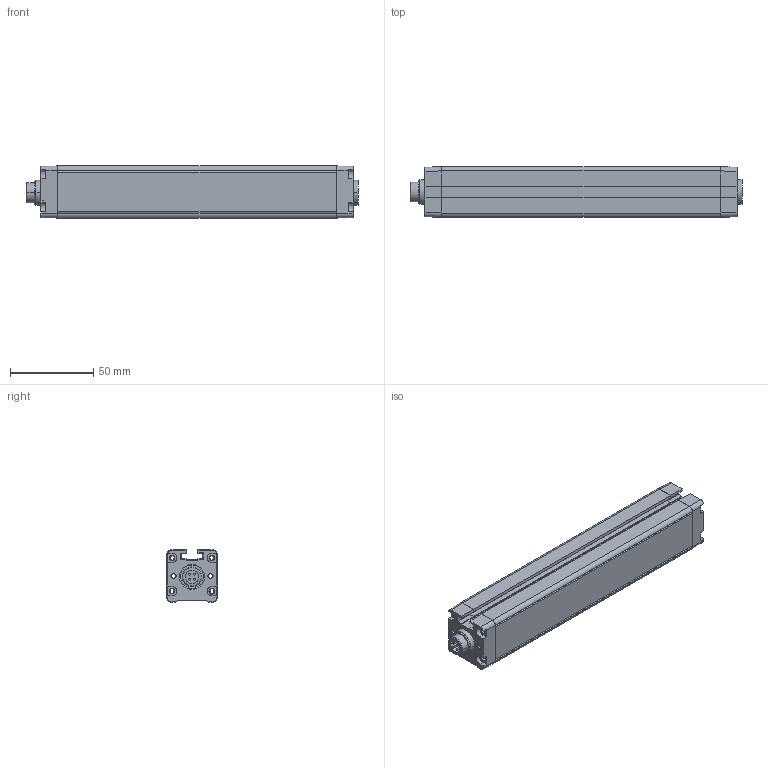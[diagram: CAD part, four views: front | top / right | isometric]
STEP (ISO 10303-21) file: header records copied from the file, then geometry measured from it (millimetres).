
FILE_DESCRIPTION(/* description */ (''),/* implementation_level */ '2;1');
FILE_NAME(/* name */ 'THS5-32.stp',/* time_stamp */ '2024-09-18T09:54:20+08:00',/* author */ (''),/* organization */ (''),/* preprocessor_version */ 'ST-DEVELOPER v16',/* originating_system */ 'SIEMENS PLM Software NX 11.0',/* authorisation */ '');
FILE_SCHEMA (('AP203_CONFIGURATION_CONTROLLED_3D_DESIGN_OF_MECHANICAL_PARTS_AND_ASSEMBLIES_MIM_LF { 1 0 10303 403 2 1 2}'));
Length unit declared in the file: millimetre
Products named in the file (9): 16960; 14961; 12962; 13963; 102964; 101965; 11966; ASM0002_ASM967; THS5-_stp
Assembly tree (8 placements, depth 3):
  THS5-_stp
    11966
    101965
    102964
    13963
    12962
    ASM0002_ASM967
      14961
      16960
Bounding box: 199.5 x 30.3 x 31.3 mm (x, y, z)
Volume: 59111.5 mm3; surface area: 75936.1 mm2
Topology: 5 solids, 7 shells, 540 faces, 1505 edges, 993 vertices
Faces by surface type: plane 382, cylinder 144, cone 14
Entity records: 18340 total; most frequent: CARTESIAN_POINT 3095, ORIENTED_EDGE 3006, DIRECTION 2911, EDGE_CURVE 1505, LINE 1173, VECTOR 1173, VERTEX_POINT 993, AXIS2_PLACEMENT_3D 869
